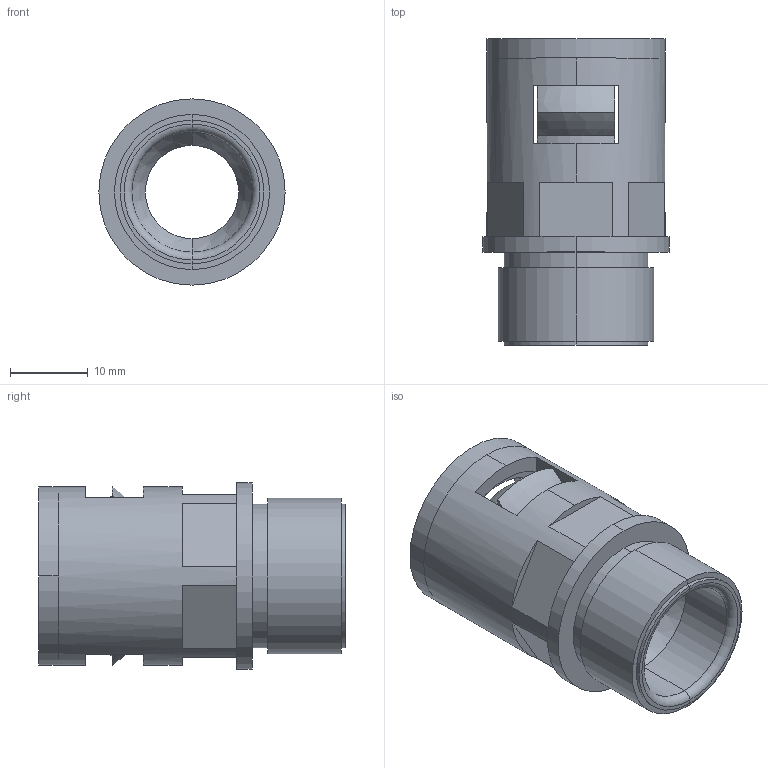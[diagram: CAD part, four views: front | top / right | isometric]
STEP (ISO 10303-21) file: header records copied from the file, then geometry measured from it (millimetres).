
FILE_DESCRIPTION (( 'STEP AP203' ), '1' );
FILE_NAME ('WQG-P13.5-AD15.8.STEP', '2015-12-23T07:59:46', ( 'User' ), ( 'Microsoft' ), 'SwSTEP 2.0', 'SolidWorks 2010', '' );
FILE_SCHEMA (( 'CONFIG_CONTROL_DESIGN' ));
Length unit declared in the file: millimetre
Products named in the file (4): WQG-P13.5-AD15.8; WQG-P13.5-AD15.8-01; GFD-AD15.8; NSK-AD15.8
Assembly tree (3 placements, depth 2):
  WQG-P13.5-AD15.8
    GFD-AD15.8
    WQG-P13.5-AD15.8-01
    NSK-AD15.8
Bounding box: 24 x 39.5 x 24 mm (x, y, z)
Volume: 6858.3 mm3; surface area: 8692.1 mm2
Topology: 3 solids, 3 shells, 157 faces, 386 edges, 236 vertices
Faces by surface type: plane 59, cone 52, cylinder 26, torus 20
Entity records: 5146 total; most frequent: DIRECTION 888, CARTESIAN_POINT 881, ORIENTED_EDGE 772, EDGE_CURVE 386, AXIS2_PLACEMENT_3D 355, VERTEX_POINT 236, CIRCLE 192, LINE 178
